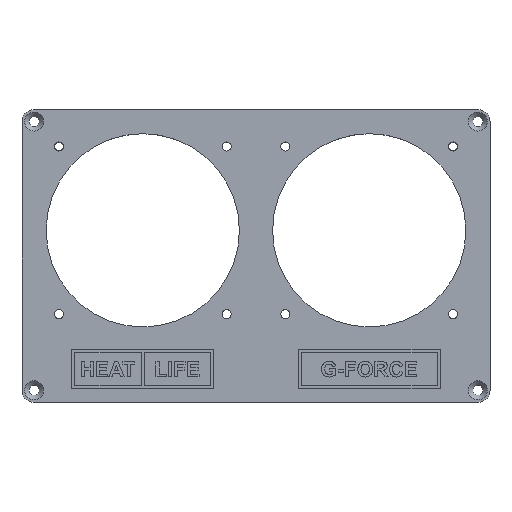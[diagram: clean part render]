
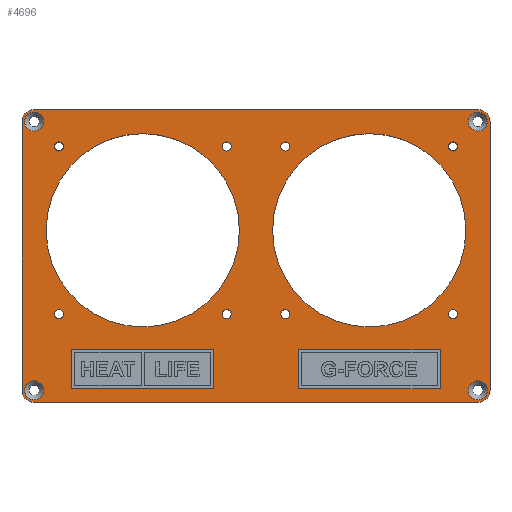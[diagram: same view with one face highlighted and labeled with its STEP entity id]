
A CAD part, top view. The second image highlights one B-rep face of the part: STEP entity #4696.
In plain terms, the highlighted planar face has unit normal (0, 0, 1).
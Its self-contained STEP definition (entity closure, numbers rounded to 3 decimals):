
#231=FACE_BOUND('',#741,.T.);
#232=FACE_BOUND('',#742,.T.);
#233=FACE_BOUND('',#743,.T.);
#234=FACE_BOUND('',#744,.T.);
#235=FACE_BOUND('',#745,.T.);
#236=FACE_BOUND('',#746,.T.);
#237=FACE_BOUND('',#747,.T.);
#238=FACE_BOUND('',#748,.T.);
#239=FACE_BOUND('',#749,.T.);
#240=FACE_BOUND('',#750,.T.);
#241=FACE_BOUND('',#751,.T.);
#242=FACE_BOUND('',#752,.T.);
#243=FACE_BOUND('',#753,.T.);
#244=FACE_BOUND('',#754,.T.);
#281=PLANE('',#4987);
#479=FACE_OUTER_BOUND('',#740,.T.);
#740=EDGE_LOOP('',(#3326,#3327,#3328,#3329,#3330,#3331,#3332,#3333));
#741=EDGE_LOOP('',(#3334));
#742=EDGE_LOOP('',(#3335));
#743=EDGE_LOOP('',(#3336));
#744=EDGE_LOOP('',(#3337));
#745=EDGE_LOOP('',(#3338));
#746=EDGE_LOOP('',(#3339));
#747=EDGE_LOOP('',(#3340));
#748=EDGE_LOOP('',(#3341));
#749=EDGE_LOOP('',(#3342));
#750=EDGE_LOOP('',(#3343));
#751=EDGE_LOOP('',(#3344));
#752=EDGE_LOOP('',(#3345));
#753=EDGE_LOOP('',(#3346));
#754=EDGE_LOOP('',(#3347));
#1050=LINE('',#6238,#1572);
#1053=LINE('',#6244,#1575);
#1054=LINE('',#6248,#1576);
#1055=LINE('',#6252,#1577);
#1572=VECTOR('',#5256,10.);
#1575=VECTOR('',#5261,10.);
#1576=VECTOR('',#5264,10.);
#1577=VECTOR('',#5267,10.);
#2084=CIRCLE('',#4964,3.15);
#2087=CIRCLE('',#4969,3.15);
#2090=CIRCLE('',#4974,3.15);
#2093=CIRCLE('',#4979,3.15);
#2097=CIRCLE('',#4985,4.);
#2098=CIRCLE('',#4988,4.);
#2099=CIRCLE('',#4989,4.);
#2100=CIRCLE('',#4990,4.);
#2101=CIRCLE('',#4991,1.5);
#2102=CIRCLE('',#4992,1.5);
#2103=CIRCLE('',#4993,1.5);
#2104=CIRCLE('',#4994,1.5);
#2105=CIRCLE('',#4995,32.);
#2106=CIRCLE('',#4996,1.5);
#2107=CIRCLE('',#4997,1.5);
#2108=CIRCLE('',#4998,1.5);
#2109=CIRCLE('',#4999,32.);
#2110=CIRCLE('',#5000,1.5);
#2124=VERTEX_POINT('',#6188);
#2127=VERTEX_POINT('',#6198);
#2130=VERTEX_POINT('',#6208);
#2133=VERTEX_POINT('',#6218);
#2138=VERTEX_POINT('',#6231);
#2139=VERTEX_POINT('',#6233);
#2140=VERTEX_POINT('',#6237);
#2142=VERTEX_POINT('',#6243);
#2143=VERTEX_POINT('',#6245);
#2144=VERTEX_POINT('',#6247);
#2145=VERTEX_POINT('',#6249);
#2146=VERTEX_POINT('',#6251);
#2147=VERTEX_POINT('',#6254);
#2148=VERTEX_POINT('',#6256);
#2149=VERTEX_POINT('',#6258);
#2150=VERTEX_POINT('',#6260);
#2151=VERTEX_POINT('',#6262);
#2152=VERTEX_POINT('',#6264);
#2153=VERTEX_POINT('',#6266);
#2154=VERTEX_POINT('',#6268);
#2155=VERTEX_POINT('',#6270);
#2156=VERTEX_POINT('',#6272);
#2588=EDGE_CURVE('',#2124,#2124,#2084,.T.);
#2593=EDGE_CURVE('',#2127,#2127,#2087,.T.);
#2598=EDGE_CURVE('',#2130,#2130,#2090,.T.);
#2603=EDGE_CURVE('',#2133,#2133,#2093,.T.);
#2610=EDGE_CURVE('',#2138,#2139,#2097,.T.);
#2612=EDGE_CURVE('',#2139,#2140,#1050,.T.);
#2615=EDGE_CURVE('',#2142,#2138,#1053,.T.);
#2616=EDGE_CURVE('',#2143,#2142,#2098,.T.);
#2617=EDGE_CURVE('',#2144,#2143,#1054,.T.);
#2618=EDGE_CURVE('',#2145,#2144,#2099,.T.);
#2619=EDGE_CURVE('',#2146,#2145,#1055,.T.);
#2620=EDGE_CURVE('',#2140,#2146,#2100,.T.);
#2621=EDGE_CURVE('',#2147,#2147,#2101,.T.);
#2622=EDGE_CURVE('',#2148,#2148,#2102,.T.);
#2623=EDGE_CURVE('',#2149,#2149,#2103,.T.);
#2624=EDGE_CURVE('',#2150,#2150,#2104,.T.);
#2625=EDGE_CURVE('',#2151,#2151,#2105,.T.);
#2626=EDGE_CURVE('',#2152,#2152,#2106,.T.);
#2627=EDGE_CURVE('',#2153,#2153,#2107,.T.);
#2628=EDGE_CURVE('',#2154,#2154,#2108,.T.);
#2629=EDGE_CURVE('',#2155,#2155,#2109,.T.);
#2630=EDGE_CURVE('',#2156,#2156,#2110,.T.);
#3326=ORIENTED_EDGE('',*,*,#2610,.F.);
#3327=ORIENTED_EDGE('',*,*,#2615,.F.);
#3328=ORIENTED_EDGE('',*,*,#2616,.F.);
#3329=ORIENTED_EDGE('',*,*,#2617,.F.);
#3330=ORIENTED_EDGE('',*,*,#2618,.F.);
#3331=ORIENTED_EDGE('',*,*,#2619,.F.);
#3332=ORIENTED_EDGE('',*,*,#2620,.F.);
#3333=ORIENTED_EDGE('',*,*,#2612,.F.);
#3334=ORIENTED_EDGE('',*,*,#2588,.T.);
#3335=ORIENTED_EDGE('',*,*,#2593,.T.);
#3336=ORIENTED_EDGE('',*,*,#2598,.T.);
#3337=ORIENTED_EDGE('',*,*,#2603,.T.);
#3338=ORIENTED_EDGE('',*,*,#2621,.T.);
#3339=ORIENTED_EDGE('',*,*,#2622,.T.);
#3340=ORIENTED_EDGE('',*,*,#2623,.T.);
#3341=ORIENTED_EDGE('',*,*,#2624,.T.);
#3342=ORIENTED_EDGE('',*,*,#2625,.T.);
#3343=ORIENTED_EDGE('',*,*,#2626,.T.);
#3344=ORIENTED_EDGE('',*,*,#2627,.T.);
#3345=ORIENTED_EDGE('',*,*,#2628,.T.);
#3346=ORIENTED_EDGE('',*,*,#2629,.T.);
#3347=ORIENTED_EDGE('',*,*,#2630,.T.);
#4696=ADVANCED_FACE('',(#479,#231,#232,#233,#234,#235,#236,#237,#238,#239,
#240,#241,#242,#243,#244),#281,.T.);
#4964=AXIS2_PLACEMENT_3D('',#6189,#5200,#5201);
#4969=AXIS2_PLACEMENT_3D('',#6199,#5212,#5213);
#4974=AXIS2_PLACEMENT_3D('',#6209,#5224,#5225);
#4979=AXIS2_PLACEMENT_3D('',#6219,#5236,#5237);
#4985=AXIS2_PLACEMENT_3D('',#6234,#5251,#5252);
#4987=AXIS2_PLACEMENT_3D('',#6242,#5259,#5260);
#4988=AXIS2_PLACEMENT_3D('',#6246,#5262,#5263);
#4989=AXIS2_PLACEMENT_3D('',#6250,#5265,#5266);
#4990=AXIS2_PLACEMENT_3D('',#6253,#5268,#5269);
#4991=AXIS2_PLACEMENT_3D('',#6255,#5270,#5271);
#4992=AXIS2_PLACEMENT_3D('',#6257,#5272,#5273);
#4993=AXIS2_PLACEMENT_3D('',#6259,#5274,#5275);
#4994=AXIS2_PLACEMENT_3D('',#6261,#5276,#5277);
#4995=AXIS2_PLACEMENT_3D('',#6263,#5278,#5279);
#4996=AXIS2_PLACEMENT_3D('',#6265,#5280,#5281);
#4997=AXIS2_PLACEMENT_3D('',#6267,#5282,#5283);
#4998=AXIS2_PLACEMENT_3D('',#6269,#5284,#5285);
#4999=AXIS2_PLACEMENT_3D('',#6271,#5286,#5287);
#5000=AXIS2_PLACEMENT_3D('',#6273,#5288,#5289);
#5200=DIRECTION('center_axis',(0.,0.,-1.));
#5201=DIRECTION('ref_axis',(1.,0.,0.));
#5212=DIRECTION('center_axis',(0.,0.,-1.));
#5213=DIRECTION('ref_axis',(1.,0.,0.));
#5224=DIRECTION('center_axis',(0.,0.,-1.));
#5225=DIRECTION('ref_axis',(1.,0.,0.));
#5236=DIRECTION('center_axis',(0.,0.,-1.));
#5237=DIRECTION('ref_axis',(1.,0.,0.));
#5251=DIRECTION('center_axis',(0.,0.,-1.));
#5252=DIRECTION('ref_axis',(-0.707,0.707,0.));
#5256=DIRECTION('',(1.,0.,0.));
#5259=DIRECTION('center_axis',(0.,0.,1.));
#5260=DIRECTION('ref_axis',(1.,0.,0.));
#5261=DIRECTION('',(0.,1.,0.));
#5262=DIRECTION('center_axis',(0.,0.,-1.));
#5263=DIRECTION('ref_axis',(-0.707,-0.707,0.));
#5264=DIRECTION('',(-1.,0.,0.));
#5265=DIRECTION('center_axis',(0.,0.,-1.));
#5266=DIRECTION('ref_axis',(0.707,-0.707,0.));
#5267=DIRECTION('',(0.,-1.,0.));
#5268=DIRECTION('center_axis',(0.,0.,-1.));
#5269=DIRECTION('ref_axis',(0.707,0.707,0.));
#5270=DIRECTION('center_axis',(0.,0.,-1.));
#5271=DIRECTION('ref_axis',(1.,0.,0.));
#5272=DIRECTION('center_axis',(0.,0.,-1.));
#5273=DIRECTION('ref_axis',(1.,0.,0.));
#5274=DIRECTION('center_axis',(0.,0.,-1.));
#5275=DIRECTION('ref_axis',(1.,0.,0.));
#5276=DIRECTION('center_axis',(0.,0.,-1.));
#5277=DIRECTION('ref_axis',(1.,0.,0.));
#5278=DIRECTION('center_axis',(0.,0.,-1.));
#5279=DIRECTION('ref_axis',(1.,0.,0.));
#5280=DIRECTION('center_axis',(0.,0.,-1.));
#5281=DIRECTION('ref_axis',(1.,0.,0.));
#5282=DIRECTION('center_axis',(0.,0.,-1.));
#5283=DIRECTION('ref_axis',(1.,0.,0.));
#5284=DIRECTION('center_axis',(0.,0.,-1.));
#5285=DIRECTION('ref_axis',(1.,0.,0.));
#5286=DIRECTION('center_axis',(0.,0.,-1.));
#5287=DIRECTION('ref_axis',(1.,0.,0.));
#5288=DIRECTION('center_axis',(0.,0.,-1.));
#5289=DIRECTION('ref_axis',(1.,0.,0.));
#6188=CARTESIAN_POINT('',(107.85,-53.,0.));
#6189=CARTESIAN_POINT('Origin',(111.,-53.,0.));
#6198=CARTESIAN_POINT('',(-39.15,36.,0.));
#6199=CARTESIAN_POINT('Origin',(-36.,36.,0.));
#6208=CARTESIAN_POINT('',(-39.15,-53.,0.));
#6209=CARTESIAN_POINT('Origin',(-36.,-53.,0.));
#6218=CARTESIAN_POINT('',(107.85,36.,0.));
#6219=CARTESIAN_POINT('Origin',(111.,36.,0.));
#6231=CARTESIAN_POINT('',(-40.,36.,0.));
#6233=CARTESIAN_POINT('',(-36.,40.,0.));
#6234=CARTESIAN_POINT('Origin',(-36.,36.,0.));
#6237=CARTESIAN_POINT('',(111.,40.,0.));
#6238=CARTESIAN_POINT('',(-40.,40.,0.));
#6242=CARTESIAN_POINT('Origin',(37.5,-8.5,0.));
#6243=CARTESIAN_POINT('',(-40.,-53.,0.));
#6244=CARTESIAN_POINT('',(-40.,-57.,0.));
#6245=CARTESIAN_POINT('',(-36.,-57.,0.));
#6246=CARTESIAN_POINT('Origin',(-36.,-53.,0.));
#6247=CARTESIAN_POINT('',(111.,-57.,0.));
#6248=CARTESIAN_POINT('',(115.,-57.,0.));
#6249=CARTESIAN_POINT('',(115.,-53.,0.));
#6250=CARTESIAN_POINT('Origin',(111.,-53.,0.));
#6251=CARTESIAN_POINT('',(115.,36.,0.));
#6252=CARTESIAN_POINT('',(115.,40.,0.));
#6253=CARTESIAN_POINT('Origin',(111.,36.,0.));
#6254=CARTESIAN_POINT('',(-29.254,-27.754,0.));
#6255=CARTESIAN_POINT('Origin',(-27.754,-27.754,0.));
#6256=CARTESIAN_POINT('',(45.746,-27.754,0.));
#6257=CARTESIAN_POINT('Origin',(47.246,-27.754,0.));
#6258=CARTESIAN_POINT('',(101.254,27.754,0.));
#6259=CARTESIAN_POINT('Origin',(102.754,27.754,0.));
#6260=CARTESIAN_POINT('',(101.254,-27.754,0.));
#6261=CARTESIAN_POINT('Origin',(102.754,-27.754,0.));
#6262=CARTESIAN_POINT('',(43.,0.,0.));
#6263=CARTESIAN_POINT('Origin',(75.,0.,0.));
#6264=CARTESIAN_POINT('',(26.254,-27.754,0.));
#6265=CARTESIAN_POINT('Origin',(27.754,-27.754,0.));
#6266=CARTESIAN_POINT('',(45.746,27.754,0.));
#6267=CARTESIAN_POINT('Origin',(47.246,27.754,0.));
#6268=CARTESIAN_POINT('',(-29.254,27.754,0.));
#6269=CARTESIAN_POINT('Origin',(-27.754,27.754,0.));
#6270=CARTESIAN_POINT('',(-32.,0.,0.));
#6271=CARTESIAN_POINT('Origin',(0.,0.,0.));
#6272=CARTESIAN_POINT('',(26.254,27.754,0.));
#6273=CARTESIAN_POINT('Origin',(27.754,27.754,0.));
